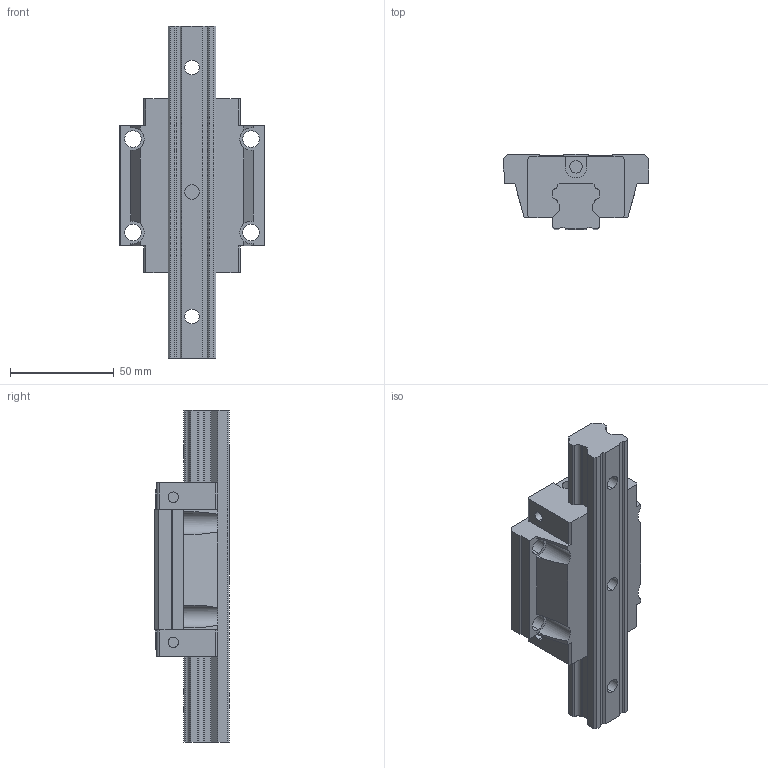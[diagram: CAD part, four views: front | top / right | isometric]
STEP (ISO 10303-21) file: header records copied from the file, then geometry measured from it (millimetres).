
FILE_DESCRIPTION((''),'2;1');
FILE_NAME('ASM0001_ASM','2008-07-11T',('immo'),(''),'PRO/ENGINEER BY PARAMETRIC TECHNOLOGY CORPORATION, 2004360','PRO/ENGINEER BY PARAMETRIC TECHNOLOGY CORPORATION, 2004360','');
FILE_SCHEMA(('CONFIG_CONTROL_DESIGN'));
Length unit declared in the file: millimetre
Products named in the file (6): HG_BLOCK_HGWCA_ANY_2; HG_BLOCK_SS_ANY_ASM_ASM_1_ASM; HG_RAIL0_R_ANY_1; HGW25C_ANY_ASM_ASM_1_ASM; HGW25CC_ASM_2_ASM; ASM0001_ASM
Assembly tree (5 placements, depth 5):
  ASM0001_ASM
    HGW25CC_ASM_2_ASM
      HGW25C_ANY_ASM_ASM_1_ASM
        HG_BLOCK_SS_ANY_ASM_ASM_1_ASM
          HG_BLOCK_HGWCA_ANY_2
        HG_RAIL0_R_ANY_1
Bounding box: 70 x 36 x 160 mm (x, y, z)
Volume: 176616.9 mm3; surface area: 40825.6 mm2
Topology: 2 solids, 2 shells, 185 faces, 530 edges, 362 vertices
Faces by surface type: plane 125, cylinder 60
Entity records: 6306 total; most frequent: CARTESIAN_POINT 1120, ORIENTED_EDGE 1060, DIRECTION 1052, EDGE_CURVE 530, VECTOR 392, LINE 392, VERTEX_POINT 362, AXIS2_PLACEMENT_3D 330
